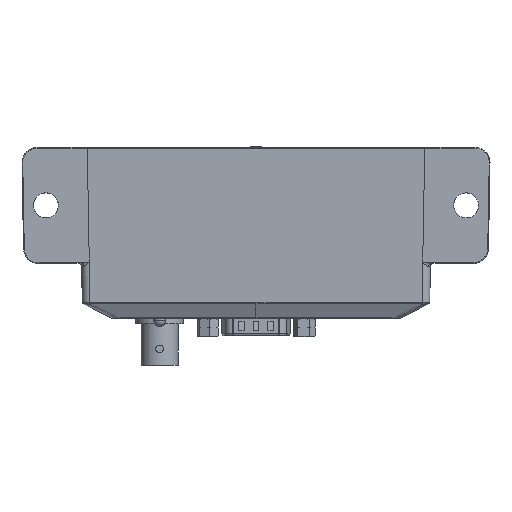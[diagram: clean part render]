
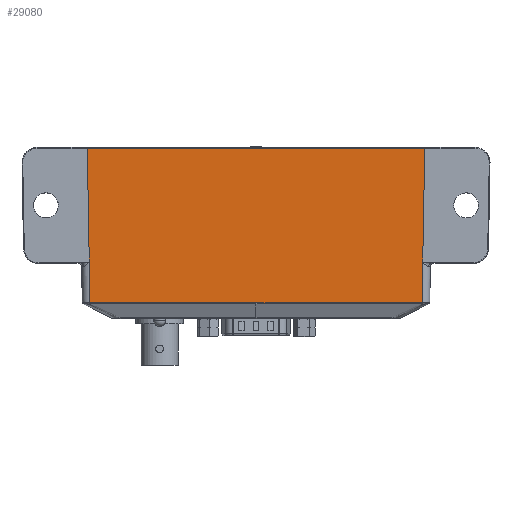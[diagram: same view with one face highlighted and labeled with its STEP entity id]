
A CAD part, front view. The second image highlights one B-rep face of the part: STEP entity #29080.
In plain terms, the highlighted planar face has unit normal (0, -1, -0.018).
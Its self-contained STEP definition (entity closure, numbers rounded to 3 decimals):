
#423 = CARTESIAN_POINT ( 'NONE',  ( 46.398, -74.521, 44.852 ) ) ;
#957 = VERTEX_POINT ( 'NONE', #38825 ) ;
#2102 = CARTESIAN_POINT ( 'NONE',  ( 46.58, -74.702, 55.237 ) ) ;
#2139 = EDGE_LOOP ( 'NONE', ( #32508, #8195, #20750, #36733, #28740, #15905, #28569, #3579, #25458 ) ) ;
#2340 = CARTESIAN_POINT ( 'NONE',  ( -40.103, -74.877, 65.287 ) ) ;
#2987 = CARTESIAN_POINT ( 'NONE',  ( 46.286, -74.52, 44.826 ) ) ;
#3337 = CARTESIAN_POINT ( 'NONE',  ( -3.853, -74.52, 44.814 ) ) ;
#3579 = ORIENTED_EDGE ( 'NONE', *, *, #31682, .T. ) ;
#3682 = CARTESIAN_POINT ( 'NONE',  ( 44.828, -74.52, 44.814 ) ) ;
#4274 = CARTESIAN_POINT ( 'NONE',  ( 47.099, -75.221, 84.994 ) ) ;
#5168 = B_SPLINE_CURVE_WITH_KNOTS ( 'NONE', 3,
 ( #24272, #3337, #21233, #14226, #28238, #35264, #34802, #7057, #27546, #45528, #10304, #46025, #42016, #28477 ),
 .UNSPECIFIED., .F., .F.,
 ( 4, 1, 1, 1, 1, 1, 1, 2, 2, 4 ),
 ( 0., 0.022, 0.032, 0.038, 0.04, 0.042, 0.042, 0.043, 0.043, 0.043 ),
 .UNSPECIFIED. ) ;
#5367 = CARTESIAN_POINT ( 'NONE',  ( -40.275, -75.049, 75.14 ) ) ;
#5394 = CARTESIAN_POINT ( 'NONE',  ( -39.928, -74.702, 55.237 ) ) ;
#5596 = CARTESIAN_POINT ( 'NONE',  ( -39.928, -74.702, 55.237 ) ) ;
#6053 = B_SPLINE_CURVE_WITH_KNOTS ( 'NONE', 3,
 ( #45982, #10501, #38929, #6089 ),
 .UNSPECIFIED., .F., .F.,
 ( 4, 4 ),
 ( 0.007, 0.993 ),
 .UNSPECIFIED. ) ;
#6089 = CARTESIAN_POINT ( 'NONE',  ( 47.099, -75.221, 84.994 ) ) ;
#7057 = CARTESIAN_POINT ( 'NONE',  ( -38.962, -74.52, 44.814 ) ) ;
#7823 = VERTEX_POINT ( 'NONE', #45735 ) ;
#8195 = ORIENTED_EDGE ( 'NONE', *, *, #30107, .T. ) ;
#9735 = DIRECTION ( 'NONE',  ( 0., -1., -0.017 ) ) ;
#9981 = CARTESIAN_POINT ( 'NONE',  ( -41.674, -75.221, 84.994 ) ) ;
#10197 = DIRECTION ( 'NONE',  ( 0., 0.017, -1. ) ) ;
#10216 = B_SPLINE_CURVE_WITH_KNOTS ( 'NONE', 3,
 ( #34484, #2340, #5367, #27019 ),
 .UNSPECIFIED., .F., .F.,
 ( 4, 4 ),
 ( 0.006, 0.962 ),
 .UNSPECIFIED. ) ;
#10304 = CARTESIAN_POINT ( 'NONE',  ( -39.523, -74.52, 44.81 ) ) ;
#10501 = CARTESIAN_POINT ( 'NONE',  ( 46.755, -74.877, 65.287 ) ) ;
#10573 = CARTESIAN_POINT ( 'NONE',  ( 46.299, -74.421, 39.162 ) ) ;
#10977 = EDGE_CURVE ( 'NONE', #43354, #14859, #5168, .T. ) ;
#11122 = CARTESIAN_POINT ( 'NONE',  ( 40.117, -74.52, 44.814 ) ) ;
#11743 = B_SPLINE_CURVE_WITH_KNOTS ( 'NONE', 3,
 ( #38854, #17850, #32319, #20880, #11122, #35614, #3682, #13650, #35142, #14097, #39319, #2987, #25325, #423 ),
 .UNSPECIFIED., .F., .F.,
 ( 4, 1, 1, 1, 1, 1, 1, 2, 2, 4 ),
 ( 0., 0.022, 0.032, 0.038, 0.04, 0.042, 0.042, 0.043, 0.043, 0.043 ),
 .UNSPECIFIED. ) ;
#12146 = CARTESIAN_POINT ( 'NONE',  ( -39.932, -74.705, 55.433 ) ) ;
#12676 = B_SPLINE_CURVE_WITH_KNOTS ( 'NONE', 3,
 ( #5394, #26355, #33365, #12146 ),
 .UNSPECIFIED., .F., .F.,
 ( 4, 4 ),
 ( 0., 1. ),
 .UNSPECIFIED. ) ;
#13650 = CARTESIAN_POINT ( 'NONE',  ( 45.613, -74.52, 44.814 ) ) ;
#14097 = CARTESIAN_POINT ( 'NONE',  ( 46.118, -74.52, 44.814 ) ) ;
#14226 = CARTESIAN_POINT ( 'NONE',  ( -27.184, -74.52, 44.814 ) ) ;
#14859 = VERTEX_POINT ( 'NONE', #26819 ) ;
#15905 = ORIENTED_EDGE ( 'NONE', *, *, #10977, .F. ) ;
#16062 = EDGE_CURVE ( 'NONE', #957, #45091, #43170, .T. ) ;
#17850 = CARTESIAN_POINT ( 'NONE',  ( 10.504, -74.52, 44.814 ) ) ;
#18855 = FACE_OUTER_BOUND ( 'NONE', #2139, .T. ) ;
#20002 = CARTESIAN_POINT ( 'NONE',  ( 46.583, -74.705, 55.433 ) ) ;
#20750 = ORIENTED_EDGE ( 'NONE', *, *, #26451, .F. ) ;
#20880 = CARTESIAN_POINT ( 'NONE',  ( 33.836, -74.52, 44.814 ) ) ;
#21224 = VECTOR ( 'NONE', #42902, 1000. ) ;
#21233 = CARTESIAN_POINT ( 'NONE',  ( -14.621, -74.52, 44.814 ) ) ;
#21235 = VERTEX_POINT ( 'NONE', #4274 ) ;
#24272 = CARTESIAN_POINT ( 'NONE',  ( 3.326, -74.52, 44.814 ) ) ;
#24855 = VECTOR ( 'NONE', #39240, 1000. ) ;
#25325 = CARTESIAN_POINT ( 'NONE',  ( 46.342, -74.52, 44.839 ) ) ;
#25458 = ORIENTED_EDGE ( 'NONE', *, *, #16062, .T. ) ;
#26219 = VERTEX_POINT ( 'NONE', #27877 ) ;
#26355 = CARTESIAN_POINT ( 'NONE',  ( -39.93, -74.703, 55.302 ) ) ;
#26451 = EDGE_CURVE ( 'NONE', #7823, #26219, #10216, .T. ) ;
#26819 = CARTESIAN_POINT ( 'NONE',  ( -39.747, -74.521, 44.852 ) ) ;
#27019 = CARTESIAN_POINT ( 'NONE',  ( -40.448, -75.221, 84.994 ) ) ;
#27546 = CARTESIAN_POINT ( 'NONE',  ( -39.299, -74.52, 44.814 ) ) ;
#27877 = CARTESIAN_POINT ( 'NONE',  ( -40.448, -75.221, 84.994 ) ) ;
#28153 = EDGE_CURVE ( 'NONE', #43354, #44115, #11743, .T. ) ;
#28238 = CARTESIAN_POINT ( 'NONE',  ( -33.466, -74.52, 44.814 ) ) ;
#28477 = CARTESIAN_POINT ( 'NONE',  ( -39.747, -74.521, 44.852 ) ) ;
#28569 = ORIENTED_EDGE ( 'NONE', *, *, #28153, .T. ) ;
#28740 = ORIENTED_EDGE ( 'NONE', *, *, #42054, .F. ) ;
#29080 = ADVANCED_FACE ( 'NONE', ( #18855 ), #33315, .T. ) ;
#29821 = EDGE_CURVE ( 'NONE', #45091, #21235, #6053, .T. ) ;
#30107 = EDGE_CURVE ( 'NONE', #21235, #26219, #41449, .T. ) ;
#31682 = EDGE_CURVE ( 'NONE', #44115, #957, #42755, .T. ) ;
#32191 = AXIS2_PLACEMENT_3D ( 'NONE', #37718, #9735, #10197 ) ;
#32200 = CARTESIAN_POINT ( 'NONE',  ( 46.583, -74.705, 55.433 ) ) ;
#32319 = CARTESIAN_POINT ( 'NONE',  ( 21.273, -74.52, 44.814 ) ) ;
#32508 = ORIENTED_EDGE ( 'NONE', *, *, #29821, .T. ) ;
#33291 = CARTESIAN_POINT ( 'NONE',  ( 46.398, -74.521, 44.852 ) ) ;
#33315 = PLANE ( 'NONE',  #32191 ) ;
#33365 = CARTESIAN_POINT ( 'NONE',  ( -39.931, -74.704, 55.368 ) ) ;
#34484 = CARTESIAN_POINT ( 'NONE',  ( -39.932, -74.705, 55.433 ) ) ;
#34802 = CARTESIAN_POINT ( 'NONE',  ( -38.177, -74.52, 44.814 ) ) ;
#35142 = CARTESIAN_POINT ( 'NONE',  ( 45.95, -74.52, 44.814 ) ) ;
#35264 = CARTESIAN_POINT ( 'NONE',  ( -36.607, -74.52, 44.814 ) ) ;
#35614 = CARTESIAN_POINT ( 'NONE',  ( 43.258, -74.52, 44.814 ) ) ;
#35922 = CARTESIAN_POINT ( 'NONE',  ( -39.648, -74.421, 39.162 ) ) ;
#36733 = ORIENTED_EDGE ( 'NONE', *, *, #41857, .F. ) ;
#36846 = CARTESIAN_POINT ( 'NONE',  ( 46.582, -74.704, 55.368 ) ) ;
#37718 = CARTESIAN_POINT ( 'NONE',  ( -41.674, -74.448, 40.697 ) ) ;
#38825 = CARTESIAN_POINT ( 'NONE',  ( 46.58, -74.702, 55.237 ) ) ;
#38854 = CARTESIAN_POINT ( 'NONE',  ( 3.326, -74.52, 44.814 ) ) ;
#38929 = CARTESIAN_POINT ( 'NONE',  ( 46.927, -75.049, 75.14 ) ) ;
#39240 = DIRECTION ( 'NONE',  ( 0.017, -0.017, 1. ) ) ;
#39319 = CARTESIAN_POINT ( 'NONE',  ( 46.174, -74.52, 44.81 ) ) ;
#40358 = VECTOR ( 'NONE', #44959, 1000. ) ;
#40767 = CARTESIAN_POINT ( 'NONE',  ( 46.581, -74.703, 55.302 ) ) ;
#41449 = LINE ( 'NONE', #9981, #40358 ) ;
#41857 = EDGE_CURVE ( 'NONE', #43161, #7823, #12676, .T. ) ;
#41932 = CARTESIAN_POINT ( 'NONE',  ( 3.326, -74.52, 44.814 ) ) ;
#42016 = CARTESIAN_POINT ( 'NONE',  ( -39.691, -74.52, 44.839 ) ) ;
#42054 = EDGE_CURVE ( 'NONE', #14859, #43161, #45000, .T. ) ;
#42755 = LINE ( 'NONE', #10573, #24855 ) ;
#42902 = DIRECTION ( 'NONE',  ( -0.017, -0.017, 1. ) ) ;
#43161 = VERTEX_POINT ( 'NONE', #5596 ) ;
#43170 = B_SPLINE_CURVE_WITH_KNOTS ( 'NONE', 3,
 ( #2102, #40767, #36846, #20002 ),
 .UNSPECIFIED., .F., .F.,
 ( 4, 4 ),
 ( 0., 0.007 ),
 .UNSPECIFIED. ) ;
#43354 = VERTEX_POINT ( 'NONE', #41932 ) ;
#44115 = VERTEX_POINT ( 'NONE', #33291 ) ;
#44959 = DIRECTION ( 'NONE',  ( -1., 0., 0. ) ) ;
#45000 = LINE ( 'NONE', #35922, #21224 ) ;
#45091 = VERTEX_POINT ( 'NONE', #32200 ) ;
#45528 = CARTESIAN_POINT ( 'NONE',  ( -39.467, -74.52, 44.814 ) ) ;
#45735 = CARTESIAN_POINT ( 'NONE',  ( -39.932, -74.705, 55.433 ) ) ;
#45982 = CARTESIAN_POINT ( 'NONE',  ( 46.583, -74.705, 55.433 ) ) ;
#46025 = CARTESIAN_POINT ( 'NONE',  ( -39.635, -74.52, 44.826 ) ) ;
